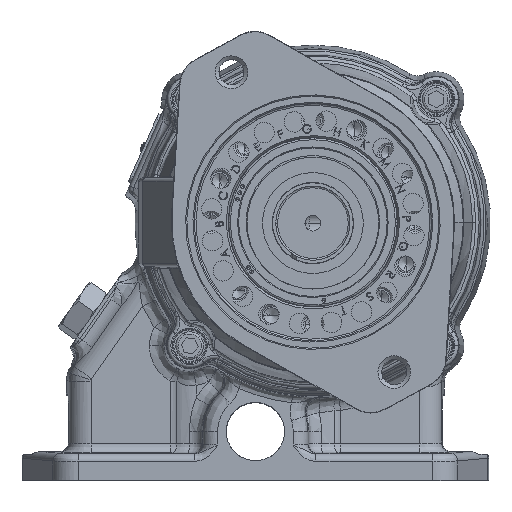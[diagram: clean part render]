
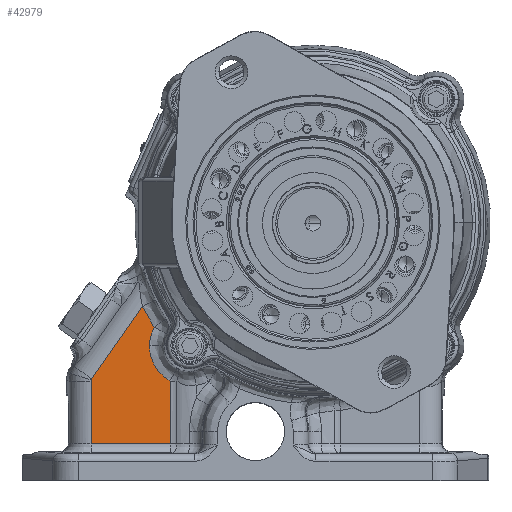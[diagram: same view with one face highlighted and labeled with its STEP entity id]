
A CAD part, top view. The second image highlights one B-rep face of the part: STEP entity #42979.
In plain terms, the highlighted planar face has unit normal (0, 0, 1).
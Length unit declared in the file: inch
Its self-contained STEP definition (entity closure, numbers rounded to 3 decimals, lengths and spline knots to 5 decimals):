
#5191 = CARTESIAN_POINT ( 'NONE',  ( -2.27168, 0.32661, 1.3875 ) ) ;
#6728 = VERTEX_POINT ( 'NONE', #123106 ) ;
#11586 = ORIENTED_EDGE ( 'NONE', *, *, #105522, .T. ) ;
#11622 = VERTEX_POINT ( 'NONE', #51138 ) ;
#11758 = CARTESIAN_POINT ( 'NONE',  ( -1.8435, 0.01383, 1.3875 ) ) ;
#11816 = EDGE_CURVE ( 'NONE', #32624, #96147, #15181, .T. ) ;
#12405 = CARTESIAN_POINT ( 'NONE',  ( -2.24138, 0.27572, 1.3875 ) ) ;
#15181 = LINE ( 'NONE', #45316, #79664 ) ;
#15459 = CARTESIAN_POINT ( 'NONE',  ( -2.36326, 0.58363, 1.3875 ) ) ;
#16982 = CARTESIAN_POINT ( 'NONE',  ( -2.82165, -0.66952, 1.3875 ) ) ;
#17872 = PLANE ( 'NONE',  #112366 ) ;
#18887 = CARTESIAN_POINT ( 'NONE',  ( -2.81368, -0.68924, 1.3875 ) ) ;
#18971 = B_SPLINE_CURVE_WITH_KNOTS ( 'NONE', 3,
 ( #72173, #24126, #52987, #31820 ),
 .UNSPECIFIED., .F., .F.,
 ( 4, 4 ),
 ( 0., 1. ),
 .UNSPECIFIED. ) ;
#19141 = DIRECTION ( 'NONE',  ( 0., 0., 1. ) ) ;
#20142 = CARTESIAN_POINT ( 'NONE',  ( -1.84176, 0.01343, 1.3875 ) ) ;
#20536 = DIRECTION ( 'NONE',  ( 0.859, 0.512, 0. ) ) ;
#20775 = CARTESIAN_POINT ( 'NONE',  ( -2.15708, 0.18295, 1.3875 ) ) ;
#21394 = CARTESIAN_POINT ( 'NONE',  ( -2.15985, 0.1856, 1.3875 ) ) ;
#22532 = B_SPLINE_CURVE_WITH_KNOTS ( 'NONE', 3,
 ( #124200, #122982, #35242, #74296 ),
 .UNSPECIFIED., .F., .F.,
 ( 4, 4 ),
 ( 0., 1. ),
 .UNSPECIFIED. ) ;
#24095 = CARTESIAN_POINT ( 'NONE',  ( -4.18096, 1.60727, 1.3875 ) ) ;
#24126 = CARTESIAN_POINT ( 'NONE',  ( -2.48596, 0.69691, 1.3875 ) ) ;
#27225 = CARTESIAN_POINT ( 'NONE',  ( -2.82001, -0.6765, 1.3875 ) ) ;
#28113 = FACE_OUTER_BOUND ( 'NONE', #112900, .T. ) ;
#30393 = CARTESIAN_POINT ( 'NONE',  ( -2.04276, 0.09442, 1.3875 ) ) ;
#31028 = CARTESIAN_POINT ( 'NONE',  ( -1.67009, -0.00335, 1.3875 ) ) ;
#31820 = CARTESIAN_POINT ( 'NONE',  ( -2.71359, 0.83497, 1.3875 ) ) ;
#32284 = CARTESIAN_POINT ( 'NONE',  ( -1.90515, 0.02832, 1.3875 ) ) ;
#32624 = VERTEX_POINT ( 'NONE', #40689 ) ;
#33745 = ORIENTED_EDGE ( 'NONE', *, *, #61853, .T. ) ;
#34683 = VERTEX_POINT ( 'NONE', #72433 ) ;
#35242 = CARTESIAN_POINT ( 'NONE',  ( -2.82386, -0.65541, 1.3875 ) ) ;
#37196 = EDGE_CURVE ( 'NONE', #11622, #6728, #81758, .T. ) ;
#38870 = ORIENTED_EDGE ( 'NONE', *, *, #47968, .T. ) ;
#40689 = CARTESIAN_POINT ( 'NONE',  ( -2.71359, 0.83497, 1.3875 ) ) ;
#41286 = CARTESIAN_POINT ( 'NONE',  ( -1.8201, 0.00876, 1.3875 ) ) ;
#42979 = ADVANCED_FACE ( 'NONE', ( #28113 ), #17872, .T. ) ;
#45316 = CARTESIAN_POINT ( 'NONE',  ( -2.71359, 0.83497, 1.3875 ) ) ;
#47968 = EDGE_CURVE ( 'NONE', #122101, #34683, #85437, .T. ) ;
#50249 = CARTESIAN_POINT ( 'NONE',  ( -2.16128, 0.18698, 1.3875 ) ) ;
#50895 = CARTESIAN_POINT ( 'NONE',  ( -2.12303, 0.15221, 1.3875 ) ) ;
#51138 = CARTESIAN_POINT ( 'NONE',  ( -2.27523, -1.59362, 1.3875 ) ) ;
#51288 = CARTESIAN_POINT ( 'NONE',  ( 0.93723, 0.319, 1.3875 ) ) ;
#52987 = CARTESIAN_POINT ( 'NONE',  ( -2.60181, 0.76232, 1.3875 ) ) ;
#53154 = CARTESIAN_POINT ( 'NONE',  ( -2.36601, 0.63873, 1.3875 ) ) ;
#55464 = DIRECTION ( 'NONE',  ( -0.512, 0.859, 0. ) ) ;
#56157 = EDGE_CURVE ( 'NONE', #111266, #122101, #65081, .T. ) ;
#56738 = VECTOR ( 'NONE', #73437, 39.37008 ) ;
#58225 = DIRECTION ( 'NONE',  ( -0.512, 0.859, 0. ) ) ;
#59233 = CARTESIAN_POINT ( 'NONE',  ( -2.20502, 0.2296, 1.3875 ) ) ;
#60867 = LINE ( 'NONE', #51288, #81508 ) ;
#61121 = CARTESIAN_POINT ( 'NONE',  ( -1.962, 0.05013, 1.3875 ) ) ;
#61688 = ORIENTED_EDGE ( 'NONE', *, *, #99906, .F. ) ;
#61853 = EDGE_CURVE ( 'NONE', #11622, #111266, #60867, .T. ) ;
#62137 = CARTESIAN_POINT ( 'NONE',  ( -1.67009, -0.00335, 1.3875 ) ) ;
#62904 = CARTESIAN_POINT ( 'NONE',  ( -2.29989, 0.374, 1.3875 ) ) ;
#65081 = LINE ( 'NONE', #104181, #99257 ) ;
#67206 = CARTESIAN_POINT ( 'NONE',  ( -0.9685, 3.51989, 1.3875 ) ) ;
#69489 = CARTESIAN_POINT ( 'NONE',  ( -2.14309, 0.16988, 1.3875 ) ) ;
#70101 = CARTESIAN_POINT ( 'NONE',  ( -1.79475, 0.00409, 1.3875 ) ) ;
#70787 = VERTEX_POINT ( 'NONE', #53154 ) ;
#72173 = CARTESIAN_POINT ( 'NONE',  ( -2.36601, 0.63873, 1.3875 ) ) ;
#72433 = CARTESIAN_POINT ( 'NONE',  ( -2.27168, 0.32661, 1.3875 ) ) ;
#73437 = DIRECTION ( 'NONE',  ( -0.512, 0.859, 0. ) ) ;
#73561 = CARTESIAN_POINT ( 'NONE',  ( -1.12943, -0.91144, 1.3875 ) ) ;
#73900 = ORIENTED_EDGE ( 'NONE', *, *, #11816, .T. ) ;
#74296 = CARTESIAN_POINT ( 'NONE',  ( -2.82333, -0.64831, 1.3875 ) ) ;
#75267 = CARTESIAN_POINT ( 'NONE',  ( -2.82165, -0.66952, 1.3875 ) ) ;
#75682 = B_SPLINE_CURVE_WITH_KNOTS ( 'NONE', 3,
 ( #5191, #62904, #92995, #83385, #15459, #76131 ),
 .UNSPECIFIED., .F., .F.,
 ( 4, 2, 4 ),
 ( 0., 0.5, 1. ),
 .UNSPECIFIED. ) ;
#75695 = VERTEX_POINT ( 'NONE', #75267 ) ;
#76131 = CARTESIAN_POINT ( 'NONE',  ( -2.36601, 0.63873, 1.3875 ) ) ;
#78071 = ORIENTED_EDGE ( 'NONE', *, *, #56157, .T. ) ;
#79062 = CARTESIAN_POINT ( 'NONE',  ( -1.74379, -0.00273, 1.3875 ) ) ;
#79664 = VECTOR ( 'NONE', #84960, 39.37008 ) ;
#80938 = CARTESIAN_POINT ( 'NONE',  ( -2.27168, 0.32661, 1.3875 ) ) ;
#81508 = VECTOR ( 'NONE', #20536, 39.37008 ) ;
#81758 = LINE ( 'NONE', #24095, #56738 ) ;
#83385 = CARTESIAN_POINT ( 'NONE',  ( -2.3539, 0.52969, 1.3875 ) ) ;
#84960 = DIRECTION ( 'NONE',  ( -0.074, -0.997, 0. ) ) ;
#85437 = B_SPLINE_CURVE_WITH_KNOTS ( 'NONE', 3,
 ( #31028, #109183, #79062, #70101, #41286, #100213, #91195, #20142, #11758, #32284, #61121, #30393, #118787, #50895, #69489, #120028, #20775, #21394, #50249, #59233, #12405, #80938 ),
 .UNSPECIFIED., .F., .F.,
 ( 4, 1, 1, 1, 1, 2, 2, 2, 1, 1, 1, 1, 2, 2, 4 ),
 ( 0., 0.125, 0.1875, 0.21875, 0.23438, 0.24219, 0.25, 0.5, 0.625, 0.6875, 0.71875, 0.73438, 0.74219, 0.75, 1. ),
 .UNSPECIFIED. ) ;
#86803 = CARTESIAN_POINT ( 'NONE',  ( -2.81735, -0.68308, 1.3875 ) ) ;
#88409 = ORIENTED_EDGE ( 'NONE', *, *, #117866, .T. ) ;
#88854 = B_SPLINE_CURVE_WITH_KNOTS ( 'NONE', 3,
 ( #16982, #27225, #86803, #18887 ),
 .UNSPECIFIED., .F., .F.,
 ( 4, 4 ),
 ( 0., 1. ),
 .UNSPECIFIED. ) ;
#91195 = CARTESIAN_POINT ( 'NONE',  ( -1.83816, 0.01261, 1.3875 ) ) ;
#92995 = CARTESIAN_POINT ( 'NONE',  ( -2.32198, 0.42411, 1.3875 ) ) ;
#96147 = VERTEX_POINT ( 'NONE', #96978 ) ;
#96978 = CARTESIAN_POINT ( 'NONE',  ( -2.82333, -0.64831, 1.3875 ) ) ;
#99257 = VECTOR ( 'NONE', #55464, 39.37008 ) ;
#99906 = EDGE_CURVE ( 'NONE', #75695, #96147, #22532, .T. ) ;
#100213 = CARTESIAN_POINT ( 'NONE',  ( -1.83274, 0.01141, 1.3875 ) ) ;
#103655 = ORIENTED_EDGE ( 'NONE', *, *, #37196, .F. ) ;
#104181 = CARTESIAN_POINT ( 'NONE',  ( -3.03517, 2.28945, 1.3875 ) ) ;
#105522 = EDGE_CURVE ( 'NONE', #75695, #6728, #88854, .T. ) ;
#109183 = CARTESIAN_POINT ( 'NONE',  ( -1.69968, -0.00425, 1.3875 ) ) ;
#111266 = VERTEX_POINT ( 'NONE', #73561 ) ;
#112366 = AXIS2_PLACEMENT_3D ( 'NONE', #67206, #19141, #58225 ) ;
#112900 = EDGE_LOOP ( 'NONE', ( #103655, #33745, #78071, #38870, #124411, #88409, #73900, #61688, #11586 ) ) ;
#117866 = EDGE_CURVE ( 'NONE', #70787, #32624, #18971, .T. ) ;
#118787 = CARTESIAN_POINT ( 'NONE',  ( -2.0813, 0.11908, 1.3875 ) ) ;
#120028 = CARTESIAN_POINT ( 'NONE',  ( -2.15292, 0.17899, 1.3875 ) ) ;
#122101 = VERTEX_POINT ( 'NONE', #62137 ) ;
#122982 = CARTESIAN_POINT ( 'NONE',  ( -2.82329, -0.66259, 1.3875 ) ) ;
#123106 = CARTESIAN_POINT ( 'NONE',  ( -2.81368, -0.68924, 1.3875 ) ) ;
#124200 = CARTESIAN_POINT ( 'NONE',  ( -2.82165, -0.66952, 1.3875 ) ) ;
#124411 = ORIENTED_EDGE ( 'NONE', *, *, #126552, .T. ) ;
#126552 = EDGE_CURVE ( 'NONE', #34683, #70787, #75682, .T. ) ;
